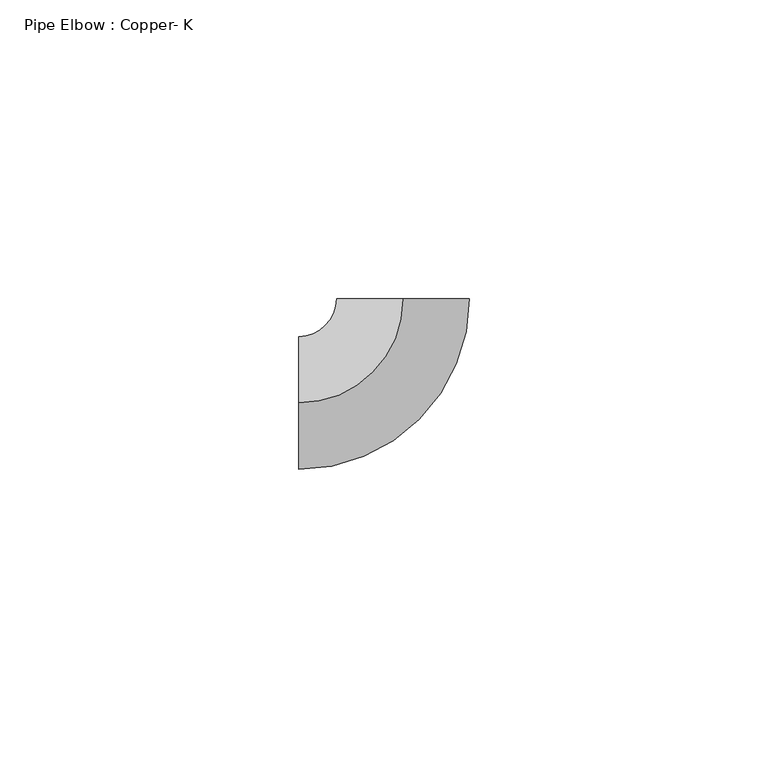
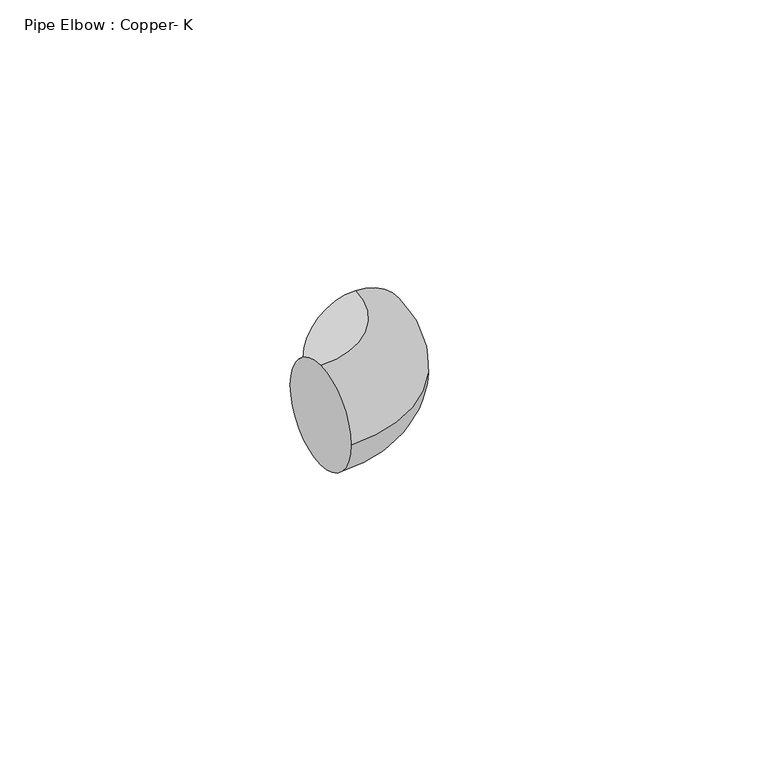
"""IFC4 building model written with IfcOpenShell, lengths in millimetres: pipe fitting geometry, Pipe Elbow : Copper- K."""

from ifc_helpers import new_model, si_unit, point, frame, origin, place, context, project, spatial, circle_curve, ellipse_curve, trimmed, source, transform, mapped, element, save
from ifc_brep_helpers import plane_surface, revolved_surface, advanced_brep


def pipe_elbow_copper_k_78ec5512(model_context):
    return source(origin(), model_context, "Body", "AdvancedBrep", [
        advanced_brep(
        [(-17.4661515, 0.0, 11.1125), (-17.4661515, 11.1125, 0.0), (-17.4661515, 0.0, -11.1125), (-17.4661515, -11.1125, 0.0), (-0.0036519, 17.4661511, 11.1125), (11.1088479, 17.4684746, 0.0), (-0.0036519, 17.4661511, -11.1125), (-11.1161516, 17.4638277, 0.0)],
        [
            (0, 1, circle_curve(frame((-17.4661515, 0.0, 0.0), z_axis=(-1.0, 0.0, 0.0), x_axis=(0.0, 1.0, 0.0)), 11.1125)),
            (1, 2, circle_curve(frame((-17.4661515, 0.0, 0.0), z_axis=(-1.0, 0.0, 0.0), x_axis=(0.0, 1.0, 0.0)), 11.1125)),
            (2, 3, circle_curve(frame((-17.4661515, 0.0, 0.0), z_axis=(-1.0, 0.0, 0.0), x_axis=(0.0, 1.0, 0.0)), 11.1125)),
            (3, 0, circle_curve(frame((-17.4661515, 0.0, 0.0), z_axis=(-1.0, 0.0, 0.0), x_axis=(0.0, 1.0, 0.0)), 11.1125)),
            (4, 5, circle_curve(frame((-0.0036519, 17.4661511, 0.0), z_axis=(-0.00020908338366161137, 0.9999999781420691, 0.0), x_axis=(-0.9999999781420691, -0.00020908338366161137, 0.0)), 11.1125)),
            (5, 6, circle_curve(frame((-0.0036519, 17.4661511, 0.0), z_axis=(-0.00020908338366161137, 0.9999999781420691, 0.0), x_axis=(-0.9999999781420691, -0.00020908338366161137, 0.0)), 11.1125)),
            (6, 7, circle_curve(frame((-0.0036519, 17.4661511, 0.0), z_axis=(-0.00020908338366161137, 0.9999999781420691, 0.0), x_axis=(-0.9999999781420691, -0.00020908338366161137, 0.0)), 11.1125)),
            (7, 4, circle_curve(frame((-0.0036519, 17.4661511, 0.0), z_axis=(-0.00020908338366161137, 0.9999999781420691, 0.0), x_axis=(-0.9999999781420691, -0.00020908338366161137, 0.0)), 11.1125)),
            (7, 1, circle_curve(frame((-17.4661515, 17.4625, 0.0), z_axis=(0.0, 0.0, -1.0), x_axis=(0.0, -1.0, 0.0)), 6.35)),
            (0, 4, circle_curve(frame((-17.4661515, 17.4625, 11.1125), z_axis=(0.0, 0.0, 1.0), x_axis=(0.0, -1.0, 0.0)), 17.4625)),
            (6, 2, circle_curve(frame((-17.4661515, 17.4625, -11.1125), z_axis=(0.0, 0.0, -1.0), x_axis=(0.0, -1.0, 0.0)), 17.4625)),
            (5, 3, circle_curve(frame((-17.4661515, 17.4625, 0.0), z_axis=(0.0, 0.0, -1.0), x_axis=(0.0, -1.0, 0.0)), 28.575)),
        ],
        [
            plane_surface(frame((-17.4661515, 0.0, 0.0), z_axis=(-1.0, 0.0, 0.0), x_axis=(0.0, 0.0, 1.0))),
            plane_surface(frame((-0.0036519, 17.4661511, 0.0), z_axis=(-0.00020908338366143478, 0.9999999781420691, 0.0), x_axis=(0.0, 0.0, 1.0))),
            revolved_surface(trimmed(ellipse_curve(frame((-17.4661515, 0.0, 0.0), z_axis=(-1.0, 0.0, 0.0), x_axis=(0.0, 1.0, 0.0)), 11.1125, 11.1125), [point((-17.4661515, 0.0, 11.1125))], [point((-17.4661515, 11.1125, 0.0))], True, "CARTESIAN"), (-17.4661515, 17.4625, 0.0), (0.0, 0.0, 1.0)),
            revolved_surface(trimmed(ellipse_curve(frame((-17.4661515, 0.0, 0.0), z_axis=(-1.0, 0.0, 0.0), x_axis=(0.0, 1.0, 0.0)), 11.1125, 11.1125), [point((-17.4661515, 11.1125, 0.0))], [point((-17.4661515, 0.0, -11.1125))], True, "CARTESIAN"), (-17.4661515, 17.4625, 0.0), (0.0, 0.0, 1.0)),
            revolved_surface(trimmed(ellipse_curve(frame((-17.4661515, 0.0, 0.0), z_axis=(-1.0, 0.0, 0.0), x_axis=(0.0, 1.0, 0.0)), 11.1125, 11.1125), [point((-17.4661515, 0.0, -11.1125))], [point((-17.4661515, -11.1125, 0.0))], True, "CARTESIAN"), (-17.4661515, 17.4625, 0.0), (0.0, 0.0, 1.0)),
            revolved_surface(trimmed(ellipse_curve(frame((-17.4661515, 0.0, 0.0), z_axis=(-1.0, 0.0, 0.0), x_axis=(0.0, 1.0, 0.0)), 11.1125, 11.1125), [point((-17.4661515, -11.1125, 0.0))], [point((-17.4661515, 0.0, 11.1125))], True, "CARTESIAN"), (-17.4661515, 17.4625, 0.0), (0.0, 0.0, 1.0)),
        ],
        [
            (0, [[1, 2, 3, 4]]),
            (1, [[5, 6, 7, 8]]),
            (2, [[9, -1, 10, -8]]),
            (3, [[11, -2, -9, -7]]),
            (4, [[12, -3, -11, -6]]),
            (5, [[-10, -4, -12, -5]]),
        ],
    ),
        advanced_brep(
        [(-17.4661515, 0.0, 11.1125), (-17.4661515, 11.1125, 0.0), (-17.4661515, 0.0, -11.1125), (-17.4661515, -11.1125, 0.0), (-0.0036519, 17.4661511, 11.1125), (11.1088479, 17.4684746, 0.0), (-0.0036519, 17.4661511, -11.1125), (-11.1161516, 17.4638277, 0.0)],
        [
            (0, 1, circle_curve(frame((-17.4661515, 0.0, 0.0), z_axis=(-1.0, 0.0, 0.0), x_axis=(0.0, 1.0, 0.0)), 11.1125)),
            (1, 2, circle_curve(frame((-17.4661515, 0.0, 0.0), z_axis=(-1.0, 0.0, 0.0), x_axis=(0.0, 1.0, 0.0)), 11.1125)),
            (2, 3, circle_curve(frame((-17.4661515, 0.0, 0.0), z_axis=(-1.0, 0.0, 0.0), x_axis=(0.0, 1.0, 0.0)), 11.1125)),
            (3, 0, circle_curve(frame((-17.4661515, 0.0, 0.0), z_axis=(-1.0, 0.0, 0.0), x_axis=(0.0, 1.0, 0.0)), 11.1125)),
            (4, 5, circle_curve(frame((-0.0036519, 17.4661511, 0.0), z_axis=(-0.00020908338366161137, 0.9999999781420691, 0.0), x_axis=(-0.9999999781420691, -0.00020908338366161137, 0.0)), 11.1125)),
            (5, 6, circle_curve(frame((-0.0036519, 17.4661511, 0.0), z_axis=(-0.00020908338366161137, 0.9999999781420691, 0.0), x_axis=(-0.9999999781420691, -0.00020908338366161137, 0.0)), 11.1125)),
            (6, 7, circle_curve(frame((-0.0036519, 17.4661511, 0.0), z_axis=(-0.00020908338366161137, 0.9999999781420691, 0.0), x_axis=(-0.9999999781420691, -0.00020908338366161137, 0.0)), 11.1125)),
            (7, 4, circle_curve(frame((-0.0036519, 17.4661511, 0.0), z_axis=(-0.00020908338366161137, 0.9999999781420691, 0.0), x_axis=(-0.9999999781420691, -0.00020908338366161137, 0.0)), 11.1125)),
            (7, 1, circle_curve(frame((-17.4661515, 17.4625, 0.0), z_axis=(0.0, 0.0, -1.0), x_axis=(0.0, -1.0, 0.0)), 6.35)),
            (0, 4, circle_curve(frame((-17.4661515, 17.4625, 11.1125), z_axis=(0.0, 0.0, 1.0), x_axis=(0.0, -1.0, 0.0)), 17.4625)),
            (6, 2, circle_curve(frame((-17.4661515, 17.4625, -11.1125), z_axis=(0.0, 0.0, -1.0), x_axis=(0.0, -1.0, 0.0)), 17.4625)),
            (5, 3, circle_curve(frame((-17.4661515, 17.4625, 0.0), z_axis=(0.0, 0.0, -1.0), x_axis=(0.0, -1.0, 0.0)), 28.575)),
        ],
        [
            plane_surface(frame((-17.4661515, 0.0, 0.0), z_axis=(-1.0, 0.0, 0.0), x_axis=(0.0, 0.0, 1.0))),
            plane_surface(frame((-0.0036519, 17.4661511, 0.0), z_axis=(-0.00020908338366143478, 0.9999999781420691, 0.0), x_axis=(0.0, 0.0, 1.0))),
            revolved_surface(trimmed(ellipse_curve(frame((-17.4661515, 0.0, 0.0), z_axis=(-1.0, 0.0, 0.0), x_axis=(0.0, 1.0, 0.0)), 11.1125, 11.1125), [point((-17.4661515, 0.0, 11.1125))], [point((-17.4661515, 11.1125, 0.0))], True, "CARTESIAN"), (-17.4661515, 17.4625, 0.0), (0.0, 0.0, 1.0)),
            revolved_surface(trimmed(ellipse_curve(frame((-17.4661515, 0.0, 0.0), z_axis=(-1.0, 0.0, 0.0), x_axis=(0.0, 1.0, 0.0)), 11.1125, 11.1125), [point((-17.4661515, 11.1125, 0.0))], [point((-17.4661515, 0.0, -11.1125))], True, "CARTESIAN"), (-17.4661515, 17.4625, 0.0), (0.0, 0.0, 1.0)),
            revolved_surface(trimmed(ellipse_curve(frame((-17.4661515, 0.0, 0.0), z_axis=(-1.0, 0.0, 0.0), x_axis=(0.0, 1.0, 0.0)), 11.1125, 11.1125), [point((-17.4661515, 0.0, -11.1125))], [point((-17.4661515, -11.1125, 0.0))], True, "CARTESIAN"), (-17.4661515, 17.4625, 0.0), (0.0, 0.0, 1.0)),
            revolved_surface(trimmed(ellipse_curve(frame((-17.4661515, 0.0, 0.0), z_axis=(-1.0, 0.0, 0.0), x_axis=(0.0, 1.0, 0.0)), 11.1125, 11.1125), [point((-17.4661515, -11.1125, 0.0))], [point((-17.4661515, 0.0, 11.1125))], True, "CARTESIAN"), (-17.4661515, 17.4625, 0.0), (0.0, 0.0, 1.0)),
        ],
        [
            (0, [[1, 2, 3, 4]]),
            (1, [[5, 6, 7, 8]]),
            (2, [[9, -1, 10, -8]]),
            (3, [[11, -2, -9, -7]]),
            (4, [[12, -3, -11, -6]]),
            (5, [[-10, -4, -12, -5]]),
        ],
    ),
    ])


if __name__ == "__main__":
    model = new_model("IFC4")
    model_context = context("Model", 3, world=origin())
    ifc_project = project(units=[si_unit("LENGTHUNIT", "METRE", prefix="MILLI")], contexts=[model_context])
    site = spatial("IfcSite", under=ifc_project)
    building = spatial("IfcBuilding", under=site)
    placement = place(None, origin())
    pipe_elbow_copper_k_shape = pipe_elbow_copper_k_78ec5512(model_context)
    element("IfcPipeFitting", 1, ObjectType="Pipe Elbow : Copper- K", at=placement, inside=building, context=model_context, shape_type="MappedRepresentation", body=[
        mapped(pipe_elbow_copper_k_shape, transform((0.0, 0.0, 0.0), x_axis=(1.0, 0.0, 0.0), y_axis=(0.0, 1.0, 0.0), z_axis=(0.0, 0.0, 1.0))),
    ])
    save(model, "model.ifc")
